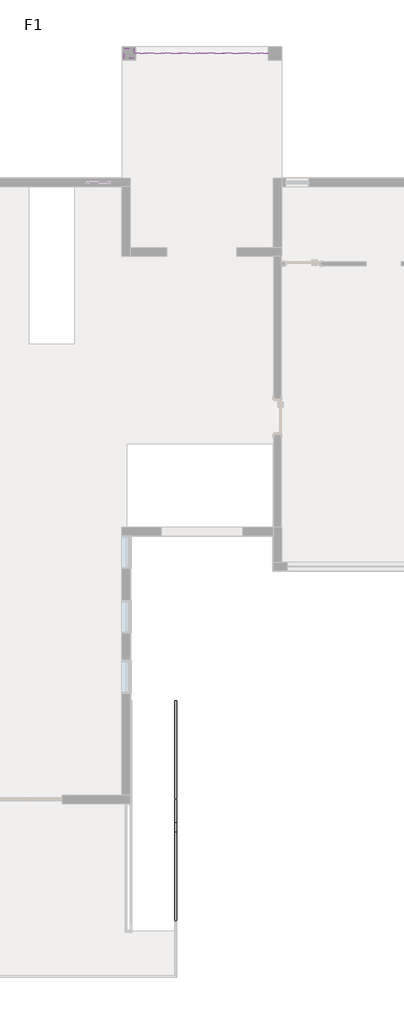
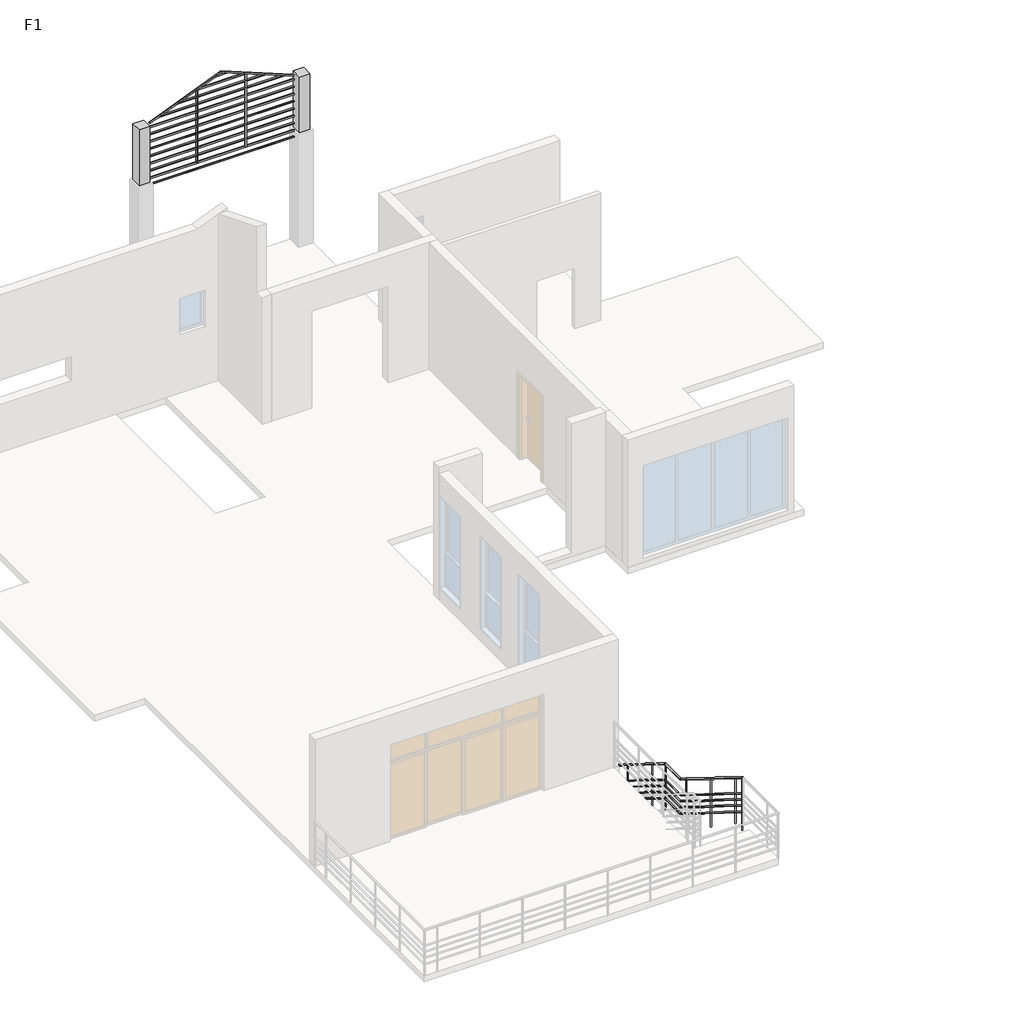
# One storey, part 4 of 4: 2 proxies, 1 railing.
"""IFC4 building model written with IfcOpenShell, lengths in millimetres."""

from ifc_helpers import new_model, si_unit, frame, origin, place, context, project, spatial, circle_curve, ellipse_curve, transform, mapped, element, save
from ifc_brep_helpers import plane_surface, cylinder_surface, advanced_brep
from components import specialty_equipment_e6049f96, specialty_equipment_643cab9b

model = new_model("IFC4")

# Units and contexts
model_context = context("Model", 3, world=origin())
ifc_project = project(units=[si_unit("LENGTHUNIT", "METRE", prefix="MILLI")], contexts=[model_context])

# Site, building, storey
site = spatial("IfcSite", under=ifc_project)
building = spatial("IfcBuilding", under=site)
storey = spatial("IfcBuildingStorey", under=building, Name="F1", Elevation=0.0)

# Proxies
placement = place(None, origin())
specialty_equipment_shape = specialty_equipment_e6049f96(model_context)
element("IfcBuildingElementProxy", 1, Name="小立柱 : 小立柱", ObjectType="小立柱 : 小立柱", at=placement, inside=storey, context=model_context, shape_type="MappedRepresentation", body=[
    mapped(specialty_equipment_shape, transform((0.0, 0.0, 0.0), x_axis=(1.0, 0.0, 0.0), y_axis=(0.0, 1.0, 0.0), z_axis=(0.0, 0.0, 1.0))),
])
specialty_equipment_2_shape = specialty_equipment_643cab9b(model_context)
element("IfcBuildingElementProxy", 2, Name="栅格 : 栅格", ObjectType="栅格 : 栅格", at=placement, inside=storey, context=model_context, shape_type="MappedRepresentation", body=[
    mapped(specialty_equipment_2_shape, transform((0.0, 0.0, 0.0), x_axis=(1.0, 0.0, 0.0), y_axis=(0.0, 1.0, 0.0), z_axis=(0.0, 0.0, 1.0))),
])

# Railing
element("IfcRailing", 3, ObjectType="900mm 圆管", at=placement, inside=storey, context=model_context, shape_type="AdvancedBrep", body=[
    advanced_brep(
    [(-8695.9782681, -12891.0286905, -1999.8510653), (-8655.9782681, -12891.0286905, -1999.8510653), (-8695.9782681, -15416.7279836, -433.1578947), (-8655.9782681, -15416.7279836, -433.1578947)],
    [
        (0, 1, ellipse_curve(frame((-8675.9782681, -12891.0286905, -1999.8510653), z_axis=(0.0, 1.0, 0.0), x_axis=(0.0, 0.0, -1.0)), 23.5352758, 20.0)),
        (1, 0, ellipse_curve(frame((-8675.9782681, -12891.0286905, -1999.8510653), z_axis=(0.0, 1.0, 0.0), x_axis=(0.0, 0.0, -1.0)), 23.5352758, 20.0)),
        (2, 3, ellipse_curve(frame((-8675.9782681, -15416.7279836, -433.1578947), z_axis=(0.0, -0.9617141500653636, 0.27405454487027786), x_axis=(0.0, -0.27405454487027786, -0.9617141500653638)), 20.7962002, 20.0)),
        (3, 2, ellipse_curve(frame((-8675.9782681, -15416.7279836, -433.1578947), z_axis=(0.0, -0.9617141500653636, 0.27405454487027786), x_axis=(0.0, -0.27405454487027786, -0.9617141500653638)), 20.7962002, 20.0)),
        (0, 2),
        (3, 1),
    ],
    [
        plane_surface(frame((-8675.9782681, -12891.0286905, -1976.3157895), z_axis=(0.0, 1.0, 0.0), x_axis=(0.0, 0.0, -1.0))),
        plane_surface(frame((-8675.9782681, -15411.0286905, -413.1578947), z_axis=(0.0, -0.9617141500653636, 0.27405454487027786), x_axis=(1.0, 0.0, 0.0))),
        cylinder_surface(frame((-8675.9782681, -12901.5711758, -1993.3115537), z_axis=(0.0, 0.8497882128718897, -0.5271242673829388), x_axis=(1.0, 0.0, 0.0)), 20.0),
    ],
    [
        (0, [[1, 2]]),
        (1, [[3, 4]]),
        (2, [[-1, 5, -4, 6]]),
        (2, [[-2, -6, -3, -5]]),
    ],
),
    advanced_brep(
    [(-8695.9782681, -15436.7279836, -433.1578947), (-8655.9782681, -15436.7279836, -433.1578947), (-8695.9782681, -16036.7279836, -433.1578947), (-8655.9782681, -16036.7279836, -433.1578947), (-8695.9782681, -16281.5711758, -281.2814785), (-8655.9782681, -16281.5711758, -281.2814785), (-8695.9782681, -18561.0286905, 1132.6677317), (-8655.9782681, -18561.0286905, 1132.6677317)],
    [
        (0, 1, ellipse_curve(frame((-8675.9782681, -15436.7279836, -433.1578947), z_axis=(0.0, 0.9617141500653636, -0.27405454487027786), x_axis=(0.0, 0.27405454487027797, 0.9617141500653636)), 20.7962002, 20.0)),
        (1, 0, ellipse_curve(frame((-8675.9782681, -15436.7279836, -433.1578947), z_axis=(0.0, 0.9617141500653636, -0.27405454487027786), x_axis=(0.0, 0.27405454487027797, 0.9617141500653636)), 20.7962002, 20.0)),
        (0, 2),
        (2, 3, ellipse_curve(frame((-8675.9782681, -16036.7279836, -433.1578947), z_axis=(0.0, 0.9617141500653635, -0.27405454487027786), x_axis=(0.0, 0.27405454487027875, 0.9617141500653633)), 20.7962002, 20.0)),
        (3, 1),
        (3, 2, ellipse_curve(frame((-8675.9782681, -16036.7279836, -433.1578947), z_axis=(0.0, 0.9617141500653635, -0.27405454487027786), x_axis=(0.0, 0.27405454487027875, 0.9617141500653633)), 20.7962002, 20.0)),
        (2, 4),
        (4, 5, circle_curve(frame((-8675.9782681, -16281.5711758, -281.2814785), z_axis=(0.0, 0.8497882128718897, -0.5271242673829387), x_axis=(1.0, 0.0, 0.0)), 20.0)),
        (5, 3),
        (5, 4, circle_curve(frame((-8675.9782681, -16281.5711758, -281.2814785), z_axis=(0.0, 0.8497882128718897, -0.5271242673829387), x_axis=(1.0, 0.0, 0.0)), 20.0)),
        (6, 7, ellipse_curve(frame((-8675.9782681, -18561.0286905, 1132.6677317), z_axis=(0.0, -1.0, 0.0), x_axis=(0.0, 0.0, -1.0)), 23.5352758, 20.0)),
        (7, 6, ellipse_curve(frame((-8675.9782681, -18561.0286905, 1132.6677317), z_axis=(0.0, -1.0, 0.0), x_axis=(0.0, 0.0, -1.0)), 23.5352758, 20.0)),
        (4, 6),
        (7, 5),
    ],
    [
        plane_surface(frame((-8675.9782681, -15431.0286905, -413.1578947), z_axis=(0.0, 0.9617141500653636, -0.27405454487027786), x_axis=(1.0, 0.0, 0.0))),
        cylinder_surface(frame((-8675.9782681, -15431.0286905, -433.1578947), z_axis=(0.0, 1.0, 0.0), x_axis=(1.0, 0.0, 0.0)), 20.0),
        cylinder_surface(frame((-8675.9782681, -16041.5711758, -430.153659), z_axis=(0.0, 0.8497882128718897, -0.5271242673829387), x_axis=(1.0, 0.0, 0.0)), 20.0),
        plane_surface(frame((-8675.9782681, -18561.0286905, 1156.2030075), z_axis=(0.0, -1.0, 0.0), x_axis=(0.0, 0.0, -1.0))),
        cylinder_surface(frame((-8675.9782681, -16281.5711758, -281.2814785), z_axis=(0.0, 0.8497882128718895, -0.5271242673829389), x_axis=(1.0, 0.0, 0.0)), 20.0),
    ],
    [
        (0, [[1, 2]]),
        (1, [[-1, 3, 4, 5]]),
        (1, [[-2, -5, 6, -3]]),
        (2, [[-4, 7, 8, 9]]),
        (2, [[-6, -9, 10, -7]]),
        (3, [[11, 12]]),
        (4, [[-8, 13, -12, 14]]),
        (4, [[-10, -14, -11, -13]]),
    ],
),
    advanced_brep(
    [(-8660.9782681, -12891.0286905, -2393.9672464), (-8690.9782681, -12891.0286905, -2393.9672464), (-8660.9782681, -15415.3031603, -828.1578947), (-8690.9782681, -15415.3031603, -828.1578947), (-8660.9782681, -15431.0286905, -828.1578947), (-8690.9782681, -15431.0286905, -828.1578947)],
    [
        (0, 1, ellipse_curve(frame((-8675.9782681, -12891.0286905, -2393.9672464), z_axis=(0.0, 1.0, 0.0), x_axis=(0.0, 0.0, -1.0)), 17.6514569, 15.0)),
        (1, 0, ellipse_curve(frame((-8675.9782681, -12891.0286905, -2393.9672464), z_axis=(0.0, 1.0, 0.0), x_axis=(0.0, 0.0, -1.0)), 17.6514569, 15.0)),
        (0, 2),
        (2, 3, ellipse_curve(frame((-8675.9782681, -15415.3031603, -828.1578947), z_axis=(0.0, 0.9617141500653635, -0.2740545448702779), x_axis=(0.0, -0.2740545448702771, -0.961714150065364)), 15.5971502, 15.0)),
        (3, 1),
        (3, 2, ellipse_curve(frame((-8675.9782681, -15415.3031603, -828.1578947), z_axis=(0.0, 0.9617141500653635, -0.2740545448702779), x_axis=(0.0, -0.2740545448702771, -0.961714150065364)), 15.5971502, 15.0)),
        (4, 5, circle_curve(frame((-8675.9782681, -15431.0286905, -828.1578947), z_axis=(0.0, -1.0, 0.0), x_axis=(-1.0, 0.0, 0.0)), 15.0)),
        (5, 4, circle_curve(frame((-8675.9782681, -15431.0286905, -828.1578947), z_axis=(0.0, -1.0, 0.0), x_axis=(-1.0, 0.0, 0.0)), 15.0)),
        (2, 4),
        (5, 3),
    ],
    [
        plane_surface(frame((-8675.9782681, -12891.0286905, -2376.3157895), z_axis=(0.0, 1.0, 0.0), x_axis=(0.0, 0.0, -1.0))),
        cylinder_surface(frame((-8675.9782681, -12898.9355545, -2389.0626127), z_axis=(0.0, 0.8497882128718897, -0.5271242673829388), x_axis=(-1.0, 0.0, 0.0)), 15.0),
        plane_surface(frame((-8675.9782681, -15431.0286905, -813.1578947), z_axis=(0.0, -1.0, 0.0), x_axis=(0.0, 0.0, -1.0))),
        cylinder_surface(frame((-8675.9782681, -15411.0286905, -828.1578947), z_axis=(0.0, 1.0, 0.0), x_axis=(-1.0, 0.0, 0.0)), 15.0),
    ],
    [
        (0, [[1, 2]]),
        (1, [[-1, 3, 4, 5]]),
        (1, [[-2, -5, 6, -3]]),
        (2, [[7, 8]]),
        (3, [[-4, 9, -8, 10]]),
        (3, [[-6, -10, -7, -9]]),
    ],
),
    advanced_brep(
    [(-8660.9782681, -15431.0286905, -828.1578947), (-8690.9782681, -15431.0286905, -828.1578947), (-8660.9782681, -16035.3031603, -828.1578947), (-8690.9782681, -16035.3031603, -828.1578947), (-8660.9782681, -16271.0286905, -681.9371712), (-8690.9782681, -16271.0286905, -681.9371712)],
    [
        (0, 1, circle_curve(frame((-8675.9782681, -15431.0286905, -828.1578947), z_axis=(0.0, 1.0, 0.0), x_axis=(-1.0, 0.0, 0.0)), 15.0)),
        (1, 0, circle_curve(frame((-8675.9782681, -15431.0286905, -828.1578947), z_axis=(0.0, 1.0, 0.0), x_axis=(-1.0, 0.0, 0.0)), 15.0)),
        (0, 2),
        (2, 3, ellipse_curve(frame((-8675.9782681, -16035.3031603, -828.1578947), z_axis=(0.0, 0.9617141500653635, -0.27405454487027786), x_axis=(0.0, 0.27405454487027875, 0.9617141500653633)), 15.5971502, 15.0)),
        (3, 1),
        (3, 2, ellipse_curve(frame((-8675.9782681, -16035.3031603, -828.1578947), z_axis=(0.0, 0.9617141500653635, -0.27405454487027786), x_axis=(0.0, 0.27405454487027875, 0.9617141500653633)), 15.5971502, 15.0)),
        (4, 5, ellipse_curve(frame((-8675.9782681, -16271.0286905, -681.9371712), z_axis=(0.0, -1.0, 0.0), x_axis=(0.0, 0.0, -1.0)), 17.6514569, 15.0)),
        (5, 4, ellipse_curve(frame((-8675.9782681, -16271.0286905, -681.9371712), z_axis=(0.0, -1.0, 0.0), x_axis=(0.0, 0.0, -1.0)), 17.6514569, 15.0)),
        (2, 4),
        (5, 3),
    ],
    [
        plane_surface(frame((-8675.9782681, -15431.0286905, -813.1578947), z_axis=(0.0, 1.0, 0.0), x_axis=(0.0, 0.0, -1.0))),
        cylinder_surface(frame((-8675.9782681, -15431.0286905, -828.1578947), z_axis=(0.0, 1.0, 0.0), x_axis=(-1.0, 0.0, 0.0)), 15.0),
        plane_surface(frame((-8675.9782681, -16271.0286905, -664.2857143), z_axis=(0.0, -1.0, 0.0), x_axis=(0.0, 0.0, -1.0))),
        cylinder_surface(frame((-8675.9782681, -16038.9355545, -825.9047179), z_axis=(0.0, 0.8497882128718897, -0.5271242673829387), x_axis=(-1.0, 0.0, 0.0)), 15.0),
    ],
    [
        (0, [[1, 2]]),
        (1, [[-1, 3, 4, 5]]),
        (1, [[-2, -5, 6, -3]]),
        (2, [[7, 8]]),
        (3, [[-4, 9, -8, 10]]),
        (3, [[-6, -10, -7, -9]]),
    ],
),
    advanced_brep(
    [(-8660.9782681, -16271.0286905, -681.9371712), (-8690.9782681, -16271.0286905, -681.9371712), (-8660.9782681, -18561.0286905, 738.5515506), (-8690.9782681, -18561.0286905, 738.5515506)],
    [
        (0, 1, ellipse_curve(frame((-8675.9782681, -16271.0286905, -681.9371712), z_axis=(0.0, 1.0, 0.0), x_axis=(0.0, 0.0, -1.0)), 17.6514569, 15.0)),
        (1, 0, ellipse_curve(frame((-8675.9782681, -16271.0286905, -681.9371712), z_axis=(0.0, 1.0, 0.0), x_axis=(0.0, 0.0, -1.0)), 17.6514569, 15.0)),
        (2, 3, ellipse_curve(frame((-8675.9782681, -18561.0286905, 738.5515506), z_axis=(0.0, -1.0, 0.0), x_axis=(0.0, 0.0, -1.0)), 17.6514569, 15.0)),
        (3, 2, ellipse_curve(frame((-8675.9782681, -18561.0286905, 738.5515506), z_axis=(0.0, -1.0, 0.0), x_axis=(0.0, 0.0, -1.0)), 17.6514569, 15.0)),
        (0, 2),
        (3, 1),
    ],
    [
        plane_surface(frame((-8675.9782681, -16271.0286905, -664.2857143), z_axis=(0.0, 1.0, 0.0), x_axis=(0.0, 0.0, -1.0))),
        plane_surface(frame((-8675.9782681, -18561.0286905, 756.2030075), z_axis=(0.0, -1.0, 0.0), x_axis=(0.0, 0.0, -1.0))),
        cylinder_surface(frame((-8675.9782681, -16278.9355545, -677.0325375), z_axis=(0.0, 0.8497882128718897, -0.5271242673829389), x_axis=(-1.0, 0.0, 0.0)), 15.0),
    ],
    [
        (0, [[1, 2]]),
        (1, [[3, 4]]),
        (2, [[-1, 5, -4, 6]]),
        (2, [[-2, -6, -3, -5]]),
    ],
),
    advanced_brep(
    [(-8660.9782681, -12891.0286905, -2543.9672464), (-8690.9782681, -12891.0286905, -2543.9672464), (-8660.9782681, -15415.3031603, -978.1578947), (-8690.9782681, -15415.3031603, -978.1578947), (-8660.9782681, -15431.0286905, -978.1578947), (-8690.9782681, -15431.0286905, -978.1578947)],
    [
        (0, 1, ellipse_curve(frame((-8675.9782681, -12891.0286905, -2543.9672464), z_axis=(0.0, 1.0, 0.0), x_axis=(0.0, 0.0, -1.0)), 17.6514569, 15.0)),
        (1, 0, ellipse_curve(frame((-8675.9782681, -12891.0286905, -2543.9672464), z_axis=(0.0, 1.0, 0.0), x_axis=(0.0, 0.0, -1.0)), 17.6514569, 15.0)),
        (0, 2),
        (2, 3, ellipse_curve(frame((-8675.9782681, -15415.3031603, -978.1578947), z_axis=(0.0, 0.9617141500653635, -0.2740545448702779), x_axis=(0.0, -0.2740545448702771, -0.961714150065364)), 15.5971502, 15.0)),
        (3, 1),
        (3, 2, ellipse_curve(frame((-8675.9782681, -15415.3031603, -978.1578947), z_axis=(0.0, 0.9617141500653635, -0.2740545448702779), x_axis=(0.0, -0.2740545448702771, -0.961714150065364)), 15.5971502, 15.0)),
        (4, 5, circle_curve(frame((-8675.9782681, -15431.0286905, -978.1578947), z_axis=(0.0, -1.0, 0.0), x_axis=(-1.0, 0.0, 0.0)), 15.0)),
        (5, 4, circle_curve(frame((-8675.9782681, -15431.0286905, -978.1578947), z_axis=(0.0, -1.0, 0.0), x_axis=(-1.0, 0.0, 0.0)), 15.0)),
        (2, 4),
        (5, 3),
    ],
    [
        plane_surface(frame((-8675.9782681, -12891.0286905, -2526.3157895), z_axis=(0.0, 1.0, 0.0), x_axis=(0.0, 0.0, -1.0))),
        cylinder_surface(frame((-8675.9782681, -12898.9355545, -2539.0626127), z_axis=(0.0, 0.8497882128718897, -0.5271242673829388), x_axis=(-1.0, 0.0, 0.0)), 15.0),
        plane_surface(frame((-8675.9782681, -15431.0286905, -963.1578947), z_axis=(0.0, -1.0, 0.0), x_axis=(0.0, 0.0, -1.0))),
        cylinder_surface(frame((-8675.9782681, -15411.0286905, -978.1578947), z_axis=(0.0, 1.0, 0.0), x_axis=(-1.0, 0.0, 0.0)), 15.0),
    ],
    [
        (0, [[1, 2]]),
        (1, [[-1, 3, 4, 5]]),
        (1, [[-2, -5, 6, -3]]),
        (2, [[7, 8]]),
        (3, [[-4, 9, -8, 10]]),
        (3, [[-6, -10, -7, -9]]),
    ],
),
    advanced_brep(
    [(-8660.9782681, -15431.0286905, -978.1578947), (-8690.9782681, -15431.0286905, -978.1578947), (-8660.9782681, -16035.3031603, -978.1578947), (-8690.9782681, -16035.3031603, -978.1578947), (-8660.9782681, -16271.0286905, -831.9371712), (-8690.9782681, -16271.0286905, -831.9371712)],
    [
        (0, 1, circle_curve(frame((-8675.9782681, -15431.0286905, -978.1578947), z_axis=(0.0, 1.0, 0.0), x_axis=(-1.0, 0.0, 0.0)), 15.0)),
        (1, 0, circle_curve(frame((-8675.9782681, -15431.0286905, -978.1578947), z_axis=(0.0, 1.0, 0.0), x_axis=(-1.0, 0.0, 0.0)), 15.0)),
        (0, 2),
        (2, 3, ellipse_curve(frame((-8675.9782681, -16035.3031603, -978.1578947), z_axis=(0.0, 0.9617141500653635, -0.27405454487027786), x_axis=(0.0, 0.27405454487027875, 0.9617141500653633)), 15.5971502, 15.0)),
        (3, 1),
        (3, 2, ellipse_curve(frame((-8675.9782681, -16035.3031603, -978.1578947), z_axis=(0.0, 0.9617141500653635, -0.27405454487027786), x_axis=(0.0, 0.27405454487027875, 0.9617141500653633)), 15.5971502, 15.0)),
        (4, 5, ellipse_curve(frame((-8675.9782681, -16271.0286905, -831.9371712), z_axis=(0.0, -1.0, 0.0), x_axis=(0.0, 0.0, -1.0)), 17.6514569, 15.0)),
        (5, 4, ellipse_curve(frame((-8675.9782681, -16271.0286905, -831.9371712), z_axis=(0.0, -1.0, 0.0), x_axis=(0.0, 0.0, -1.0)), 17.6514569, 15.0)),
        (2, 4),
        (5, 3),
    ],
    [
        plane_surface(frame((-8675.9782681, -15431.0286905, -963.1578947), z_axis=(0.0, 1.0, 0.0), x_axis=(0.0, 0.0, -1.0))),
        cylinder_surface(frame((-8675.9782681, -15431.0286905, -978.1578947), z_axis=(0.0, 1.0, 0.0), x_axis=(-1.0, 0.0, 0.0)), 15.0),
        plane_surface(frame((-8675.9782681, -16271.0286905, -814.2857143), z_axis=(0.0, -1.0, 0.0), x_axis=(0.0, 0.0, -1.0))),
        cylinder_surface(frame((-8675.9782681, -16038.9355545, -975.9047179), z_axis=(0.0, 0.8497882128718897, -0.5271242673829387), x_axis=(-1.0, 0.0, 0.0)), 15.0),
    ],
    [
        (0, [[1, 2]]),
        (1, [[-1, 3, 4, 5]]),
        (1, [[-2, -5, 6, -3]]),
        (2, [[7, 8]]),
        (3, [[-4, 9, -8, 10]]),
        (3, [[-6, -10, -7, -9]]),
    ],
),
    advanced_brep(
    [(-8660.9782681, -16271.0286905, -831.9371712), (-8690.9782681, -16271.0286905, -831.9371712), (-8660.9782681, -18561.0286905, 588.5515506), (-8690.9782681, -18561.0286905, 588.5515506)],
    [
        (0, 1, ellipse_curve(frame((-8675.9782681, -16271.0286905, -831.9371712), z_axis=(0.0, 1.0, 0.0), x_axis=(0.0, 0.0, -1.0)), 17.6514569, 15.0)),
        (1, 0, ellipse_curve(frame((-8675.9782681, -16271.0286905, -831.9371712), z_axis=(0.0, 1.0, 0.0), x_axis=(0.0, 0.0, -1.0)), 17.6514569, 15.0)),
        (2, 3, ellipse_curve(frame((-8675.9782681, -18561.0286905, 588.5515506), z_axis=(0.0, -1.0, 0.0), x_axis=(0.0, 0.0, -1.0)), 17.6514569, 15.0)),
        (3, 2, ellipse_curve(frame((-8675.9782681, -18561.0286905, 588.5515506), z_axis=(0.0, -1.0, 0.0), x_axis=(0.0, 0.0, -1.0)), 17.6514569, 15.0)),
        (0, 2),
        (3, 1),
    ],
    [
        plane_surface(frame((-8675.9782681, -16271.0286905, -814.2857143), z_axis=(0.0, 1.0, 0.0), x_axis=(0.0, 0.0, -1.0))),
        plane_surface(frame((-8675.9782681, -18561.0286905, 606.2030075), z_axis=(0.0, -1.0, 0.0), x_axis=(0.0, 0.0, -1.0))),
        cylinder_surface(frame((-8675.9782681, -16278.9355545, -827.0325375), z_axis=(0.0, 0.8497882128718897, -0.5271242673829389), x_axis=(-1.0, 0.0, 0.0)), 15.0),
    ],
    [
        (0, [[1, 2]]),
        (1, [[3, 4]]),
        (2, [[-1, 5, -4, 6]]),
        (2, [[-2, -6, -3, -5]]),
    ],
),
    advanced_brep(
    [(-8660.9782681, -12891.0286905, -2693.9672464), (-8690.9782681, -12891.0286905, -2693.9672464), (-8660.9782681, -15415.3031603, -1128.1578947), (-8690.9782681, -15415.3031603, -1128.1578947), (-8660.9782681, -15431.0286905, -1128.1578947), (-8690.9782681, -15431.0286905, -1128.1578947)],
    [
        (0, 1, ellipse_curve(frame((-8675.9782681, -12891.0286905, -2693.9672464), z_axis=(0.0, 1.0, 0.0), x_axis=(0.0, 0.0, -1.0)), 17.6514569, 15.0)),
        (1, 0, ellipse_curve(frame((-8675.9782681, -12891.0286905, -2693.9672464), z_axis=(0.0, 1.0, 0.0), x_axis=(0.0, 0.0, -1.0)), 17.6514569, 15.0)),
        (0, 2),
        (2, 3, ellipse_curve(frame((-8675.9782681, -15415.3031603, -1128.1578947), z_axis=(0.0, 0.9617141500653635, -0.2740545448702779), x_axis=(0.0, -0.2740545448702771, -0.961714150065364)), 15.5971502, 15.0)),
        (3, 1),
        (3, 2, ellipse_curve(frame((-8675.9782681, -15415.3031603, -1128.1578947), z_axis=(0.0, 0.9617141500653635, -0.2740545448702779), x_axis=(0.0, -0.2740545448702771, -0.961714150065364)), 15.5971502, 15.0)),
        (4, 5, circle_curve(frame((-8675.9782681, -15431.0286905, -1128.1578947), z_axis=(0.0, -1.0, 0.0), x_axis=(-1.0, 0.0, 0.0)), 15.0)),
        (5, 4, circle_curve(frame((-8675.9782681, -15431.0286905, -1128.1578947), z_axis=(0.0, -1.0, 0.0), x_axis=(-1.0, 0.0, 0.0)), 15.0)),
        (2, 4),
        (5, 3),
    ],
    [
        plane_surface(frame((-8675.9782681, -12891.0286905, -2676.3157895), z_axis=(0.0, 1.0, 0.0), x_axis=(0.0, 0.0, -1.0))),
        cylinder_surface(frame((-8675.9782681, -12898.9355545, -2689.0626127), z_axis=(0.0, 0.8497882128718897, -0.5271242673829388), x_axis=(-1.0, 0.0, 0.0)), 15.0),
        plane_surface(frame((-8675.9782681, -15431.0286905, -1113.1578947), z_axis=(0.0, -1.0, 0.0), x_axis=(0.0, 0.0, -1.0))),
        cylinder_surface(frame((-8675.9782681, -15411.0286905, -1128.1578947), z_axis=(0.0, 1.0, 0.0), x_axis=(-1.0, 0.0, 0.0)), 15.0),
    ],
    [
        (0, [[1, 2]]),
        (1, [[-1, 3, 4, 5]]),
        (1, [[-2, -5, 6, -3]]),
        (2, [[7, 8]]),
        (3, [[-4, 9, -8, 10]]),
        (3, [[-6, -10, -7, -9]]),
    ],
),
    advanced_brep(
    [(-8660.9782681, -15431.0286905, -1128.1578947), (-8690.9782681, -15431.0286905, -1128.1578947), (-8660.9782681, -16035.3031603, -1128.1578947), (-8690.9782681, -16035.3031603, -1128.1578947), (-8660.9782681, -16271.0286905, -981.9371712), (-8690.9782681, -16271.0286905, -981.9371712)],
    [
        (0, 1, circle_curve(frame((-8675.9782681, -15431.0286905, -1128.1578947), z_axis=(0.0, 1.0, 0.0), x_axis=(-1.0, 0.0, 0.0)), 15.0)),
        (1, 0, circle_curve(frame((-8675.9782681, -15431.0286905, -1128.1578947), z_axis=(0.0, 1.0, 0.0), x_axis=(-1.0, 0.0, 0.0)), 15.0)),
        (0, 2),
        (2, 3, ellipse_curve(frame((-8675.9782681, -16035.3031603, -1128.1578947), z_axis=(0.0, 0.9617141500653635, -0.27405454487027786), x_axis=(0.0, 0.27405454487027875, 0.9617141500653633)), 15.5971502, 15.0)),
        (3, 1),
        (3, 2, ellipse_curve(frame((-8675.9782681, -16035.3031603, -1128.1578947), z_axis=(0.0, 0.9617141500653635, -0.27405454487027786), x_axis=(0.0, 0.27405454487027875, 0.9617141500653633)), 15.5971502, 15.0)),
        (4, 5, ellipse_curve(frame((-8675.9782681, -16271.0286905, -981.9371712), z_axis=(0.0, -1.0, 0.0), x_axis=(0.0, 0.0, -1.0)), 17.6514569, 15.0)),
        (5, 4, ellipse_curve(frame((-8675.9782681, -16271.0286905, -981.9371712), z_axis=(0.0, -1.0, 0.0), x_axis=(0.0, 0.0, -1.0)), 17.6514569, 15.0)),
        (2, 4),
        (5, 3),
    ],
    [
        plane_surface(frame((-8675.9782681, -15431.0286905, -1113.1578947), z_axis=(0.0, 1.0, 0.0), x_axis=(0.0, 0.0, -1.0))),
        cylinder_surface(frame((-8675.9782681, -15431.0286905, -1128.1578947), z_axis=(0.0, 1.0, 0.0), x_axis=(-1.0, 0.0, 0.0)), 15.0),
        plane_surface(frame((-8675.9782681, -16271.0286905, -964.2857143), z_axis=(0.0, -1.0, 0.0), x_axis=(0.0, 0.0, -1.0))),
        cylinder_surface(frame((-8675.9782681, -16038.9355545, -1125.9047179), z_axis=(0.0, 0.8497882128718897, -0.5271242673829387), x_axis=(-1.0, 0.0, 0.0)), 15.0),
    ],
    [
        (0, [[1, 2]]),
        (1, [[-1, 3, 4, 5]]),
        (1, [[-2, -5, 6, -3]]),
        (2, [[7, 8]]),
        (3, [[-4, 9, -8, 10]]),
        (3, [[-6, -10, -7, -9]]),
    ],
),
    advanced_brep(
    [(-8660.9782681, -16271.0286905, -981.9371712), (-8690.9782681, -16271.0286905, -981.9371712), (-8660.9782681, -18561.0286905, 438.5515506), (-8690.9782681, -18561.0286905, 438.5515506)],
    [
        (0, 1, ellipse_curve(frame((-8675.9782681, -16271.0286905, -981.9371712), z_axis=(0.0, 1.0, 0.0), x_axis=(0.0, 0.0, -1.0)), 17.6514569, 15.0)),
        (1, 0, ellipse_curve(frame((-8675.9782681, -16271.0286905, -981.9371712), z_axis=(0.0, 1.0, 0.0), x_axis=(0.0, 0.0, -1.0)), 17.6514569, 15.0)),
        (2, 3, ellipse_curve(frame((-8675.9782681, -18561.0286905, 438.5515506), z_axis=(0.0, -1.0, 0.0), x_axis=(0.0, 0.0, -1.0)), 17.6514569, 15.0)),
        (3, 2, ellipse_curve(frame((-8675.9782681, -18561.0286905, 438.5515506), z_axis=(0.0, -1.0, 0.0), x_axis=(0.0, 0.0, -1.0)), 17.6514569, 15.0)),
        (0, 2),
        (3, 1),
    ],
    [
        plane_surface(frame((-8675.9782681, -16271.0286905, -964.2857143), z_axis=(0.0, 1.0, 0.0), x_axis=(0.0, 0.0, -1.0))),
        plane_surface(frame((-8675.9782681, -18561.0286905, 456.2030075), z_axis=(0.0, -1.0, 0.0), x_axis=(0.0, 0.0, -1.0))),
        cylinder_surface(frame((-8675.9782681, -16278.9355545, -977.0325375), z_axis=(0.0, 0.8497882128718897, -0.5271242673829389), x_axis=(-1.0, 0.0, 0.0)), 15.0),
    ],
    [
        (0, [[1, 2]]),
        (1, [[3, 4]]),
        (2, [[-1, 5, -4, 6]]),
        (2, [[-2, -6, -3, -5]]),
    ],
),
    advanced_brep(
    [(-8660.9782681, -12891.0286905, -2855.9672464), (-8690.9782681, -12891.0286905, -2855.9672464), (-8660.9782681, -15415.3031603, -1290.1578947), (-8690.9782681, -15415.3031603, -1290.1578947), (-8660.9782681, -15431.0286905, -1290.1578947), (-8690.9782681, -15431.0286905, -1290.1578947)],
    [
        (0, 1, ellipse_curve(frame((-8675.9782681, -12891.0286905, -2855.9672464), z_axis=(0.0, 1.0, 0.0), x_axis=(0.0, 0.0, -1.0)), 17.6514569, 15.0)),
        (1, 0, ellipse_curve(frame((-8675.9782681, -12891.0286905, -2855.9672464), z_axis=(0.0, 1.0, 0.0), x_axis=(0.0, 0.0, -1.0)), 17.6514569, 15.0)),
        (0, 2),
        (2, 3, ellipse_curve(frame((-8675.9782681, -15415.3031603, -1290.1578947), z_axis=(0.0, 0.9617141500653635, -0.2740545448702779), x_axis=(0.0, -0.2740545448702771, -0.961714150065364)), 15.5971502, 15.0)),
        (3, 1),
        (3, 2, ellipse_curve(frame((-8675.9782681, -15415.3031603, -1290.1578947), z_axis=(0.0, 0.9617141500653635, -0.2740545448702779), x_axis=(0.0, -0.2740545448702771, -0.961714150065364)), 15.5971502, 15.0)),
        (4, 5, circle_curve(frame((-8675.9782681, -15431.0286905, -1290.1578947), z_axis=(0.0, -1.0, 0.0), x_axis=(-1.0, 0.0, 0.0)), 15.0)),
        (5, 4, circle_curve(frame((-8675.9782681, -15431.0286905, -1290.1578947), z_axis=(0.0, -1.0, 0.0), x_axis=(-1.0, 0.0, 0.0)), 15.0)),
        (2, 4),
        (5, 3),
    ],
    [
        plane_surface(frame((-8675.9782681, -12891.0286905, -2838.3157895), z_axis=(0.0, 1.0, 0.0), x_axis=(0.0, 0.0, -1.0))),
        cylinder_surface(frame((-8675.9782681, -12898.9355545, -2851.0626127), z_axis=(0.0, 0.8497882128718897, -0.5271242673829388), x_axis=(-1.0, 0.0, 0.0)), 15.0),
        plane_surface(frame((-8675.9782681, -15431.0286905, -1275.1578947), z_axis=(0.0, -1.0, 0.0), x_axis=(0.0, 0.0, -1.0))),
        cylinder_surface(frame((-8675.9782681, -15411.0286905, -1290.1578947), z_axis=(0.0, 1.0, 0.0), x_axis=(-1.0, 0.0, 0.0)), 15.0),
    ],
    [
        (0, [[1, 2]]),
        (1, [[-1, 3, 4, 5]]),
        (1, [[-2, -5, 6, -3]]),
        (2, [[7, 8]]),
        (3, [[-4, 9, -8, 10]]),
        (3, [[-6, -10, -7, -9]]),
    ],
),
    advanced_brep(
    [(-8660.9782681, -15431.0286905, -1290.1578947), (-8690.9782681, -15431.0286905, -1290.1578947), (-8660.9782681, -16035.3031603, -1290.1578947), (-8690.9782681, -16035.3031603, -1290.1578947), (-8660.9782681, -16271.0286905, -1143.9371712), (-8690.9782681, -16271.0286905, -1143.9371712)],
    [
        (0, 1, circle_curve(frame((-8675.9782681, -15431.0286905, -1290.1578947), z_axis=(0.0, 1.0, 0.0), x_axis=(-1.0, 0.0, 0.0)), 15.0)),
        (1, 0, circle_curve(frame((-8675.9782681, -15431.0286905, -1290.1578947), z_axis=(0.0, 1.0, 0.0), x_axis=(-1.0, 0.0, 0.0)), 15.0)),
        (0, 2),
        (2, 3, ellipse_curve(frame((-8675.9782681, -16035.3031603, -1290.1578947), z_axis=(0.0, 0.9617141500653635, -0.27405454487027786), x_axis=(0.0, 0.27405454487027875, 0.9617141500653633)), 15.5971502, 15.0)),
        (3, 1),
        (3, 2, ellipse_curve(frame((-8675.9782681, -16035.3031603, -1290.1578947), z_axis=(0.0, 0.9617141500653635, -0.27405454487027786), x_axis=(0.0, 0.27405454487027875, 0.9617141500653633)), 15.5971502, 15.0)),
        (4, 5, ellipse_curve(frame((-8675.9782681, -16271.0286905, -1143.9371712), z_axis=(0.0, -1.0, 0.0), x_axis=(0.0, 0.0, -1.0)), 17.6514569, 15.0)),
        (5, 4, ellipse_curve(frame((-8675.9782681, -16271.0286905, -1143.9371712), z_axis=(0.0, -1.0, 0.0), x_axis=(0.0, 0.0, -1.0)), 17.6514569, 15.0)),
        (2, 4),
        (5, 3),
    ],
    [
        plane_surface(frame((-8675.9782681, -15431.0286905, -1275.1578947), z_axis=(0.0, 1.0, 0.0), x_axis=(0.0, 0.0, -1.0))),
        cylinder_surface(frame((-8675.9782681, -15431.0286905, -1290.1578947), z_axis=(0.0, 1.0, 0.0), x_axis=(-1.0, 0.0, 0.0)), 15.0),
        plane_surface(frame((-8675.9782681, -16271.0286905, -1126.2857143), z_axis=(0.0, -1.0, 0.0), x_axis=(0.0, 0.0, -1.0))),
        cylinder_surface(frame((-8675.9782681, -16038.9355545, -1287.9047179), z_axis=(0.0, 0.8497882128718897, -0.5271242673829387), x_axis=(-1.0, 0.0, 0.0)), 15.0),
    ],
    [
        (0, [[1, 2]]),
        (1, [[-1, 3, 4, 5]]),
        (1, [[-2, -5, 6, -3]]),
        (2, [[7, 8]]),
        (3, [[-4, 9, -8, 10]]),
        (3, [[-6, -10, -7, -9]]),
    ],
),
    advanced_brep(
    [(-8660.9782681, -16271.0286905, -1143.9371712), (-8690.9782681, -16271.0286905, -1143.9371712), (-8660.9782681, -18561.0286905, 276.5515506), (-8690.9782681, -18561.0286905, 276.5515506)],
    [
        (0, 1, ellipse_curve(frame((-8675.9782681, -16271.0286905, -1143.9371712), z_axis=(0.0, 1.0, 0.0), x_axis=(0.0, 0.0, -1.0)), 17.6514569, 15.0)),
        (1, 0, ellipse_curve(frame((-8675.9782681, -16271.0286905, -1143.9371712), z_axis=(0.0, 1.0, 0.0), x_axis=(0.0, 0.0, -1.0)), 17.6514569, 15.0)),
        (2, 3, ellipse_curve(frame((-8675.9782681, -18561.0286905, 276.5515506), z_axis=(0.0, -1.0, 0.0), x_axis=(0.0, 0.0, -1.0)), 17.6514569, 15.0)),
        (3, 2, ellipse_curve(frame((-8675.9782681, -18561.0286905, 276.5515506), z_axis=(0.0, -1.0, 0.0), x_axis=(0.0, 0.0, -1.0)), 17.6514569, 15.0)),
        (0, 2),
        (3, 1),
    ],
    [
        plane_surface(frame((-8675.9782681, -16271.0286905, -1126.2857143), z_axis=(0.0, 1.0, 0.0), x_axis=(0.0, 0.0, -1.0))),
        plane_surface(frame((-8675.9782681, -18561.0286905, 294.2030075), z_axis=(0.0, -1.0, 0.0), x_axis=(0.0, 0.0, -1.0))),
        cylinder_surface(frame((-8675.9782681, -16278.9355545, -1139.0325375), z_axis=(0.0, 0.8497882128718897, -0.5271242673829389), x_axis=(-1.0, 0.0, 0.0)), 15.0),
    ],
    [
        (0, [[1, 2]]),
        (1, [[3, 4]]),
        (2, [[-1, 5, -4, 6]]),
        (2, [[-2, -6, -3, -5]]),
    ],
),
    advanced_brep(
    [(-8688.4782681, -18271.0286905, 929.2452378), (-8688.4782681, -18271.0286905, -173.6842105), (-8663.4782681, -18271.0286905, -173.6842105), (-8663.4782681, -18271.0286905, 929.2452378)],
    [
        (0, 1),
        (1, 2, circle_curve(frame((-8675.9782681, -18271.0286905, -173.6842105), z_axis=(0.0, 0.0, 1.0), x_axis=(1.0, 0.0, 0.0)), 12.5)),
        (2, 3),
        (3, 0, ellipse_curve(frame((-8675.9782681, -18271.0286905, 929.2452378), z_axis=(0.0, -0.5271242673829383, -0.84978821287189), x_axis=(0.0, -0.84978821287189, 0.5271242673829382)), 14.7095474, 12.5)),
        (0, 3, ellipse_curve(frame((-8675.9782681, -18271.0286905, 929.2452378), z_axis=(0.0, -0.5271242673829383, -0.84978821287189), x_axis=(0.0, -0.84978821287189, 0.5271242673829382)), 14.7095474, 12.5)),
        (2, 1, circle_curve(frame((-8675.9782681, -18271.0286905, -173.6842105), z_axis=(0.0, 0.0, 1.0), x_axis=(1.0, 0.0, 0.0)), 12.5)),
    ],
    [
        cylinder_surface(frame((-8675.9782681, -18271.0286905, -273.6842105), z_axis=(0.0, 0.0, 1.0), x_axis=(1.0, 0.0, 0.0)), 12.5),
        plane_surface(frame((-8650.9782681, -18296.0286905, 944.7527566), z_axis=(0.0, 0.5271242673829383, 0.84978821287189), x_axis=(-1.0, 0.0, 0.0))),
        plane_surface(frame((-8650.9782681, -18246.0286905, -173.6842105), z_axis=(0.0, 0.0, -1.0), x_axis=(-1.0, 0.0, 0.0))),
    ],
    [
        (0, [[1, 2, 3, 4]]),
        (0, [[-1, 5, -3, 6]]),
        (1, [[-4, -5]]),
        (2, [[-2, -6]]),
    ],
),
    advanced_brep(
    [(-8688.4782681, -17271.0286905, 308.9444859), (-8688.4782681, -17271.0286905, -868.4210526), (-8663.4782681, -17271.0286905, -868.4210526), (-8663.4782681, -17271.0286905, 308.9444859)],
    [
        (0, 1),
        (1, 2, circle_curve(frame((-8675.9782681, -17271.0286905, -868.4210526), z_axis=(0.0, 0.0, 1.0), x_axis=(1.0, 0.0, 0.0)), 12.5)),
        (2, 3),
        (3, 0, ellipse_curve(frame((-8675.9782681, -17271.0286905, 308.9444859), z_axis=(0.0, -0.5271242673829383, -0.84978821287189), x_axis=(0.0, -0.84978821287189, 0.5271242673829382)), 14.7095474, 12.5)),
        (0, 3, ellipse_curve(frame((-8675.9782681, -17271.0286905, 308.9444859), z_axis=(0.0, -0.5271242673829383, -0.84978821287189), x_axis=(0.0, -0.84978821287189, 0.5271242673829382)), 14.7095474, 12.5)),
        (2, 1, circle_curve(frame((-8675.9782681, -17271.0286905, -868.4210526), z_axis=(0.0, 0.0, 1.0), x_axis=(1.0, 0.0, 0.0)), 12.5)),
    ],
    [
        cylinder_surface(frame((-8675.9782681, -17271.0286905, -968.4210526), z_axis=(0.0, 0.0, 1.0), x_axis=(1.0, 0.0, 0.0)), 12.5),
        plane_surface(frame((-8650.9782681, -17296.0286905, 324.4520047), z_axis=(0.0, 0.5271242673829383, 0.84978821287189), x_axis=(-1.0, 0.0, 0.0))),
        plane_surface(frame((-8650.9782681, -17246.0286905, -868.4210526), z_axis=(0.0, 0.0, -1.0), x_axis=(-1.0, 0.0, 0.0))),
    ],
    [
        (0, [[1, 2, 3, 4]]),
        (0, [[-1, 5, -3, 6]]),
        (1, [[-4, -5]]),
        (2, [[-2, -6]]),
    ],
),
    advanced_brep(
    [(-8688.4782681, -14891.0286905, -782.7848374), (-8688.4782681, -14891.0286905, -1910.5263158), (-8663.4782681, -14891.0286905, -1910.5263158), (-8663.4782681, -14891.0286905, -782.7848374)],
    [
        (0, 1),
        (1, 2, circle_curve(frame((-8675.9782681, -14891.0286905, -1910.5263158), z_axis=(0.0, 0.0, 1.0), x_axis=(1.0, 0.0, 0.0)), 12.5)),
        (2, 3),
        (3, 0, ellipse_curve(frame((-8675.9782681, -14891.0286905, -782.7848374), z_axis=(0.0, -0.5271242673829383, -0.84978821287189), x_axis=(0.0, -0.84978821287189, 0.5271242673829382)), 14.7095474, 12.5)),
        (0, 3, ellipse_curve(frame((-8675.9782681, -14891.0286905, -782.7848374), z_axis=(0.0, -0.5271242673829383, -0.84978821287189), x_axis=(0.0, -0.84978821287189, 0.5271242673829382)), 14.7095474, 12.5)),
        (2, 1, circle_curve(frame((-8675.9782681, -14891.0286905, -1910.5263158), z_axis=(0.0, 0.0, 1.0), x_axis=(1.0, 0.0, 0.0)), 12.5)),
    ],
    [
        cylinder_surface(frame((-8675.9782681, -14891.0286905, -2010.5263158), z_axis=(0.0, 0.0, 1.0), x_axis=(1.0, 0.0, 0.0)), 12.5),
        plane_surface(frame((-8650.9782681, -14916.0286905, -767.2773186), z_axis=(0.0, 0.5271242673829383, 0.84978821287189), x_axis=(-1.0, 0.0, 0.0))),
        plane_surface(frame((-8650.9782681, -14866.0286905, -1910.5263158), z_axis=(0.0, 0.0, -1.0), x_axis=(-1.0, 0.0, 0.0))),
    ],
    [
        (0, [[1, 2, 3, 4]]),
        (0, [[-1, 5, -3, 6]]),
        (1, [[-4, -5]]),
        (2, [[-2, -6]]),
    ],
),
    advanced_brep(
    [(-8688.4782681, -13891.0286905, -1403.0855893), (-8688.4782681, -13891.0286905, -2605.2631579), (-8663.4782681, -13891.0286905, -2605.2631579), (-8663.4782681, -13891.0286905, -1403.0855893)],
    [
        (0, 1),
        (1, 2, circle_curve(frame((-8675.9782681, -13891.0286905, -2605.2631579), z_axis=(0.0, 0.0, 1.0), x_axis=(1.0, 0.0, 0.0)), 12.5)),
        (2, 3),
        (3, 0, ellipse_curve(frame((-8675.9782681, -13891.0286905, -1403.0855893), z_axis=(0.0, -0.52712426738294, -0.849788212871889), x_axis=(0.0, -0.849788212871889, 0.5271242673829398)), 14.7095474, 12.5)),
        (0, 3, ellipse_curve(frame((-8675.9782681, -13891.0286905, -1403.0855893), z_axis=(0.0, -0.52712426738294, -0.849788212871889), x_axis=(0.0, -0.849788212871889, 0.5271242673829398)), 14.7095474, 12.5)),
        (2, 1, circle_curve(frame((-8675.9782681, -13891.0286905, -2605.2631579), z_axis=(0.0, 0.0, 1.0), x_axis=(1.0, 0.0, 0.0)), 12.5)),
    ],
    [
        cylinder_surface(frame((-8675.9782681, -13891.0286905, -2705.2631579), z_axis=(0.0, 0.0, 1.0), x_axis=(1.0, 0.0, 0.0)), 12.5),
        plane_surface(frame((-8650.9782681, -13916.0286905, -1387.5780705), z_axis=(0.0, 0.52712426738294, 0.849788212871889), x_axis=(-1.0, 0.0, 0.0))),
        plane_surface(frame((-8650.9782681, -13866.0286905, -2605.2631579), z_axis=(0.0, 0.0, -1.0), x_axis=(-1.0, 0.0, 0.0))),
    ],
    [
        (0, [[1, 2, 3, 4]]),
        (0, [[-1, 5, -3, 6]]),
        (1, [[-4, -5]]),
        (2, [[-2, -6]]),
    ],
),
    advanced_brep(
    [(-8688.4782681, -16271.0286905, -311.356266), (-8688.4782681, -16271.0286905, -1563.1578947), (-8663.4782681, -16271.0286905, -1563.1578947), (-8663.4782681, -16271.0286905, -311.356266)],
    [
        (0, 1),
        (1, 2, circle_curve(frame((-8675.9782681, -16271.0286905, -1563.1578947), z_axis=(0.0, 0.0, 1.0), x_axis=(1.0, 0.0, 0.0)), 12.5)),
        (2, 3),
        (3, 0, ellipse_curve(frame((-8675.9782681, -16271.0286905, -311.356266), z_axis=(0.0, -0.5271242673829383, -0.84978821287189), x_axis=(0.0, -0.84978821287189, 0.5271242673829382)), 14.7095474, 12.5)),
        (0, 3, ellipse_curve(frame((-8675.9782681, -16271.0286905, -311.356266), z_axis=(0.0, -0.5271242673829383, -0.84978821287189), x_axis=(0.0, -0.84978821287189, 0.5271242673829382)), 14.7095474, 12.5)),
        (2, 1, circle_curve(frame((-8675.9782681, -16271.0286905, -1563.1578947), z_axis=(0.0, 0.0, 1.0), x_axis=(1.0, 0.0, 0.0)), 12.5)),
    ],
    [
        cylinder_surface(frame((-8675.9782681, -16271.0286905, -1663.1578947), z_axis=(0.0, 0.0, 1.0), x_axis=(1.0, 0.0, 0.0)), 12.5),
        plane_surface(frame((-8650.9782681, -16296.0286905, -295.8487472), z_axis=(0.0, 0.5271242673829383, 0.84978821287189), x_axis=(-1.0, 0.0, 0.0))),
        plane_surface(frame((-8650.9782681, -16246.0286905, -1563.1578947), z_axis=(0.0, 0.0, -1.0), x_axis=(-1.0, 0.0, 0.0))),
    ],
    [
        (0, [[1, 2, 3, 4]]),
        (0, [[-1, 5, -3, 6]]),
        (1, [[-4, -5]]),
        (2, [[-2, -6]]),
    ],
),
    advanced_brep(
    [(-8688.4782681, -15431.0286905, -447.8224314), (-8688.4782681, -15431.0286905, -1563.1578947), (-8663.4782681, -15431.0286905, -1563.1578947), (-8663.4782681, -15431.0286905, -447.8224314)],
    [
        (0, 1),
        (1, 2, circle_curve(frame((-8675.9782681, -15431.0286905, -1563.1578947), z_axis=(0.0, 0.0, 1.0), x_axis=(1.0, 0.0, 0.0)), 12.5)),
        (2, 3),
        (3, 0, ellipse_curve(frame((-8675.9782681, -15431.0286905, -447.8224314), z_axis=(0.0, -0.5271242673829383, -0.84978821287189), x_axis=(0.0, -0.84978821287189, 0.5271242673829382)), 14.7095474, 12.5)),
        (0, 3, ellipse_curve(frame((-8675.9782681, -15431.0286905, -447.8224314), z_axis=(0.0, -0.5271242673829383, -0.84978821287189), x_axis=(0.0, -0.84978821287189, 0.5271242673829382)), 14.7095474, 12.5)),
        (2, 1, circle_curve(frame((-8675.9782681, -15431.0286905, -1563.1578947), z_axis=(0.0, 0.0, 1.0), x_axis=(1.0, 0.0, 0.0)), 12.5)),
    ],
    [
        cylinder_surface(frame((-8675.9782681, -15431.0286905, -1663.1578947), z_axis=(0.0, 0.0, 1.0), x_axis=(1.0, 0.0, 0.0)), 12.5),
        plane_surface(frame((-8650.9782681, -15456.0286905, -432.3149126), z_axis=(0.0, 0.5271242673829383, 0.84978821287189), x_axis=(-1.0, 0.0, 0.0))),
        plane_surface(frame((-8650.9782681, -15406.0286905, -1563.1578947), z_axis=(0.0, 0.0, -1.0), x_axis=(-1.0, 0.0, 0.0))),
    ],
    [
        (0, [[1, 2, 3, 4]]),
        (0, [[-1, 5, -3, 6]]),
        (1, [[-4, -5]]),
        (2, [[-2, -6]]),
    ],
),
    advanced_brep(
    [(-8688.4782681, -18548.5286905, 1101.3786964), (-8688.4782681, -18548.5286905, -173.6842105), (-8663.4782681, -18548.5286905, -173.6842105), (-8663.4782681, -18548.5286905, 1101.3786964)],
    [
        (0, 1),
        (1, 2, circle_curve(frame((-8675.9782681, -18548.5286905, -173.6842105), z_axis=(0.0, 0.0, 1.0), x_axis=(1.0, 0.0, 0.0)), 12.5)),
        (2, 3),
        (3, 0, ellipse_curve(frame((-8675.9782681, -18548.5286905, 1101.3786964), z_axis=(0.0, -0.5271242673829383, -0.84978821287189), x_axis=(0.0, -0.84978821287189, 0.5271242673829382)), 14.7095474, 12.5)),
        (0, 3, ellipse_curve(frame((-8675.9782681, -18548.5286905, 1101.3786964), z_axis=(0.0, -0.5271242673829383, -0.84978821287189), x_axis=(0.0, -0.84978821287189, 0.5271242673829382)), 14.7095474, 12.5)),
        (2, 1, circle_curve(frame((-8675.9782681, -18548.5286905, -173.6842105), z_axis=(0.0, 0.0, 1.0), x_axis=(1.0, 0.0, 0.0)), 12.5)),
    ],
    [
        cylinder_surface(frame((-8675.9782681, -18548.5286905, -273.6842105), z_axis=(0.0, 0.0, 1.0), x_axis=(1.0, 0.0, 0.0)), 12.5),
        plane_surface(frame((-8650.9782681, -18573.5286905, 1116.8862152), z_axis=(0.0, 0.5271242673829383, 0.84978821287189), x_axis=(-1.0, 0.0, 0.0))),
        plane_surface(frame((-8650.9782681, -18523.5286905, -173.6842105), z_axis=(0.0, 0.0, -1.0), x_axis=(-1.0, 0.0, 0.0))),
    ],
    [
        (0, [[1, 2, 3, 4]]),
        (0, [[-1, 5, -3, 6]]),
        (1, [[-4, -5]]),
        (2, [[-2, -6]]),
    ],
),
    advanced_brep(
    [(-8688.4782681, -12903.5286905, -2015.6325818), (-8688.4782681, -12903.5286905, -3126.3157895), (-8663.4782681, -12903.5286905, -3126.3157895), (-8663.4782681, -12903.5286905, -2015.6325818)],
    [
        (0, 1),
        (1, 2, circle_curve(frame((-8675.9782681, -12903.5286905, -3126.3157895), z_axis=(0.0, 0.0, 1.0), x_axis=(1.0, 0.0, 0.0)), 12.5)),
        (2, 3),
        (3, 0, ellipse_curve(frame((-8675.9782681, -12903.5286905, -2015.6325818), z_axis=(0.0, -0.5271242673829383, -0.84978821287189), x_axis=(0.0, -0.84978821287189, 0.5271242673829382)), 14.7095474, 12.5)),
        (0, 3, ellipse_curve(frame((-8675.9782681, -12903.5286905, -2015.6325818), z_axis=(0.0, -0.5271242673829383, -0.84978821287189), x_axis=(0.0, -0.84978821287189, 0.5271242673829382)), 14.7095474, 12.5)),
        (2, 1, circle_curve(frame((-8675.9782681, -12903.5286905, -3126.3157895), z_axis=(0.0, 0.0, 1.0), x_axis=(1.0, 0.0, 0.0)), 12.5)),
    ],
    [
        cylinder_surface(frame((-8675.9782681, -12903.5286905, -3226.3157895), z_axis=(0.0, 0.0, 1.0), x_axis=(1.0, 0.0, 0.0)), 12.5),
        plane_surface(frame((-8650.9782681, -12928.5286905, -2000.125063), z_axis=(0.0, 0.5271242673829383, 0.84978821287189), x_axis=(-1.0, 0.0, 0.0))),
        plane_surface(frame((-8650.9782681, -12878.5286905, -3126.3157895), z_axis=(0.0, 0.0, -1.0), x_axis=(-1.0, 0.0, 0.0))),
    ],
    [
        (0, [[1, 2, 3, 4]]),
        (0, [[-1, 5, -3, 6]]),
        (1, [[-4, -5]]),
        (2, [[-2, -6]]),
    ],
),
])

save(model, "model.ifc")
